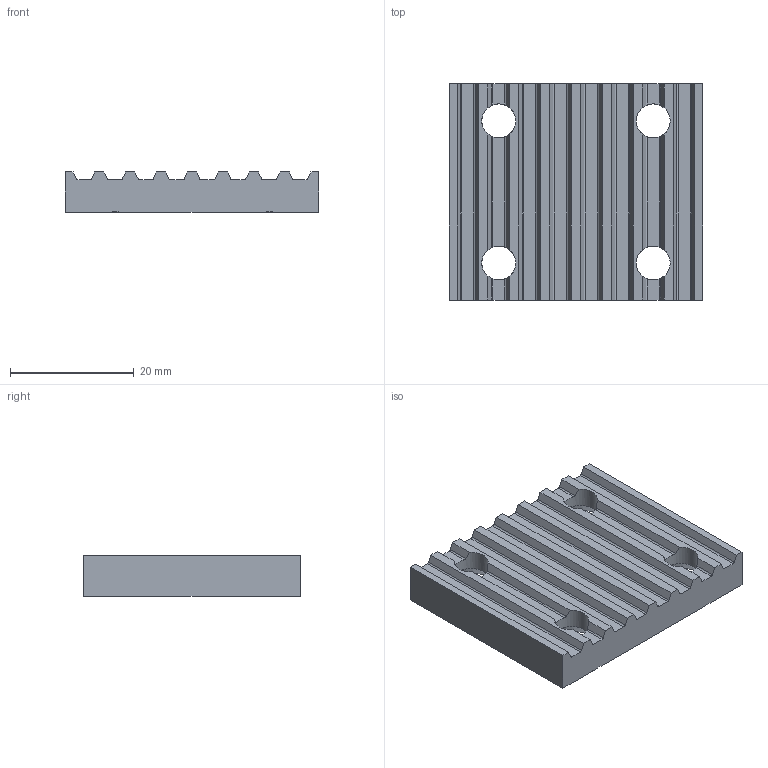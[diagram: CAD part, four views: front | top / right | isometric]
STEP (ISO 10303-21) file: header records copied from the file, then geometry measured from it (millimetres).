
FILE_DESCRIPTION(('STEP AP203'), '1');
FILE_NAME('ÒÏÏÔ1801.01.12.06.004 - Çàæèìíàÿ ïëàñòèíà', '', ('UNSPECIFIED'), ('UNSPECIFIED'), 'C3D Converter', 'C3D Toolkit', '');
FILE_SCHEMA(('CONFIG_CONTROL_DESIGN'));
Length unit declared in the file: millimetre
Products named in the file (1): ТППФ1801.01.12.06.004
Bounding box: 41 x 35 x 6.5 mm (x, y, z)
Volume: 7207.2 mm3; surface area: 4359 mm2
Topology: 1 solids, 1 shells, 82 faces, 260 edges, 172 vertices
Faces by surface type: plane 50, cylinder 28, cone 4
Full cylindrical faces by diameter (mm): 5.5 x4
Entity records: 3776 total; most frequent: CARTESIAN_POINT 823, ORIENTED_EDGE 504, DIRECTION 446, EDGE_CURVE 252, VERTEX_POINT 172, LINE 152, VECTOR 152, AXIS2_PLACEMENT_3D 147
